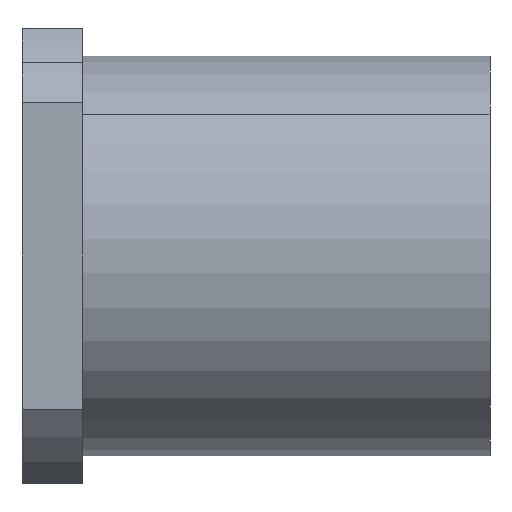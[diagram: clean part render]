
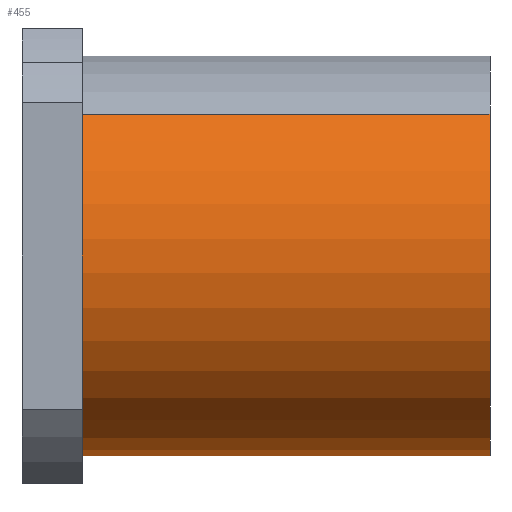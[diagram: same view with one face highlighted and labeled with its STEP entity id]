
A CAD part, front view. The second image highlights one B-rep face of the part: STEP entity #455.
In plain terms, the highlighted cylindrical face has radius 60 mm (diameter 120 mm), a partial arc.
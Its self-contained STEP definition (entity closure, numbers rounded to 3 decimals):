
#11 = EDGE_CURVE ( 'NONE', #875, #1133, #837, .T. ) ;
#47 = AXIS2_PLACEMENT_3D ( 'NONE', #849, #203, #560 ) ;
#55 = ORIENTED_EDGE ( 'NONE', *, *, #372, .F. ) ;
#79 = CYLINDRICAL_SURFACE ( 'NONE', #176, 60. ) ;
#83 = VERTEX_POINT ( 'NONE', #260 ) ;
#102 = ORIENTED_EDGE ( 'NONE', *, *, #420, .F. ) ;
#122 = VECTOR ( 'NONE', #687, 1000. ) ;
#132 = CARTESIAN_POINT ( 'NONE',  ( 140., 0., 0. ) ) ;
#176 = AXIS2_PLACEMENT_3D ( 'NONE', #619, #890, #329 ) ;
#203 = DIRECTION ( 'NONE',  ( 1., 0., 0. ) ) ;
#260 = CARTESIAN_POINT ( 'NONE',  ( 18., 42.426, -42.426 ) ) ;
#311 = ORIENTED_EDGE ( 'NONE', *, *, #11, .T. ) ;
#329 = DIRECTION ( 'NONE',  ( 0., 0.707, -0.707 ) ) ;
#372 = EDGE_CURVE ( 'NONE', #797, #83, #1136, .T. ) ;
#420 = EDGE_CURVE ( 'NONE', #875, #797, #444, .T. ) ;
#444 = CIRCLE ( 'NONE', #1102, 60. ) ;
#455 = ADVANCED_FACE ( 'NONE', ( #796 ), #79, .T. ) ;
#486 = DIRECTION ( 'NONE',  ( 1., 0., 0. ) ) ;
#517 = EDGE_LOOP ( 'NONE', ( #102, #311, #1124, #55 ) ) ;
#548 = CIRCLE ( 'NONE', #47, 60. ) ;
#560 = DIRECTION ( 'NONE',  ( 0., 0.707, -0.707 ) ) ;
#619 = CARTESIAN_POINT ( 'NONE',  ( 140., 0., 0. ) ) ;
#687 = DIRECTION ( 'NONE',  ( -1., 0., 0. ) ) ;
#688 = CARTESIAN_POINT ( 'NONE',  ( 140., -42.426, 42.426 ) ) ;
#708 = EDGE_CURVE ( 'NONE', #1133, #83, #548, .T. ) ;
#720 = DIRECTION ( 'NONE',  ( -1., 0., 0. ) ) ;
#749 = CARTESIAN_POINT ( 'NONE',  ( 140., -42.426, 42.426 ) ) ;
#781 = CARTESIAN_POINT ( 'NONE',  ( 18., -42.426, 42.426 ) ) ;
#796 = FACE_OUTER_BOUND ( 'NONE', #517, .T. ) ;
#797 = VERTEX_POINT ( 'NONE', #1003 ) ;
#837 = LINE ( 'NONE', #749, #934 ) ;
#849 = CARTESIAN_POINT ( 'NONE',  ( 18., 0., 0. ) ) ;
#854 = DIRECTION ( 'NONE',  ( 0., 0.707, -0.707 ) ) ;
#859 = CARTESIAN_POINT ( 'NONE',  ( 140., 42.426, -42.426 ) ) ;
#875 = VERTEX_POINT ( 'NONE', #688 ) ;
#890 = DIRECTION ( 'NONE',  ( -1., 0., 0. ) ) ;
#934 = VECTOR ( 'NONE', #720, 1000. ) ;
#1003 = CARTESIAN_POINT ( 'NONE',  ( 140., 42.426, -42.426 ) ) ;
#1102 = AXIS2_PLACEMENT_3D ( 'NONE', #132, #486, #854 ) ;
#1124 = ORIENTED_EDGE ( 'NONE', *, *, #708, .T. ) ;
#1133 = VERTEX_POINT ( 'NONE', #781 ) ;
#1136 = LINE ( 'NONE', #859, #122 ) ;
